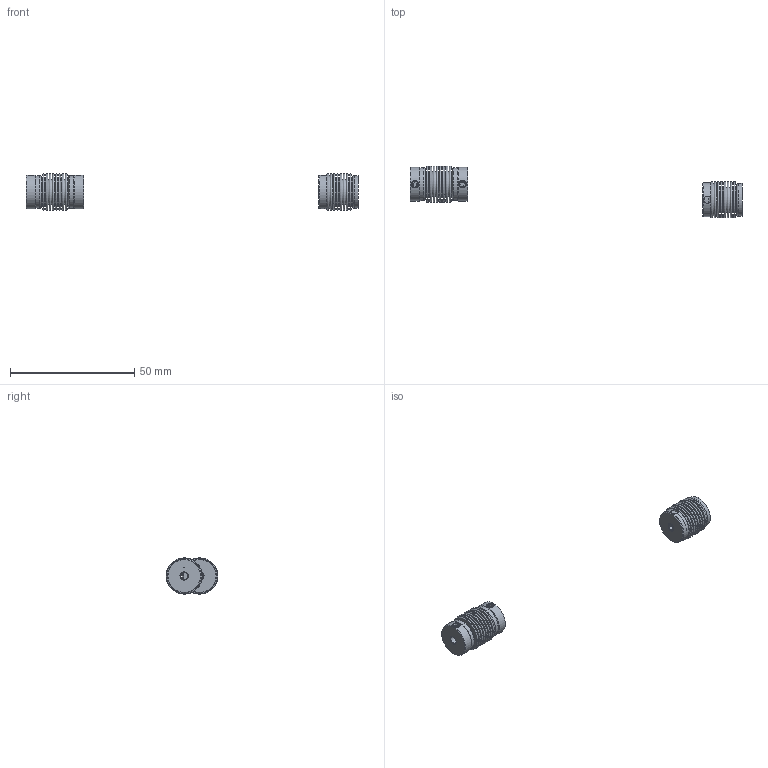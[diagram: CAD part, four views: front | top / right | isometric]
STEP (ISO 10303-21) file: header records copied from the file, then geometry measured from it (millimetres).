
FILE_DESCRIPTION( ( 'Unknown' ), '1' );
FILE_NAME( 'C:/Dokumente und Einstellungen/Sven/Desktop/cad - homepage/KB1/KB1-5-23.stp', 'Unknown', ( 'Unknown' ), ( 'Unknown' ), 'XStep 1.0', 'Unknown', ' ' );
FILE_SCHEMA( ( 'automotive_design' ) );
Length unit declared in the file: millimetre
Products named in the file (4): Assem1; MN5_Standard_0; Socket Set Screw Cup Point_DIN_DIN 916 - M3 x 4-N_4; BM5_Standard
Bounding box: 133.51 x 20.85 x 14.59 mm (x, y, z)
Volume: 2699.9 mm3; surface area: 9776.9 mm2
Topology: 8 solids, 8 shells, 226 faces, 413 edges, 269 vertices
Faces by surface type: plane 106, torus 76, cylinder 23, cone 21
Full cylindrical faces by diameter (mm): 3 x9, 12.9 x7, 13.1 x4, 13.5 x3
Entity records: 2905 total; most frequent: DIRECTION 424, CARTESIAN_POINT 380, ORIENTED_EDGE 228, AXIS2_PLACEMENT_3D 203, EDGE_LOOP 198, FACE_OUTER_BOUND 149, EDGE_CURVE 114, VERTEX_POINT 109
